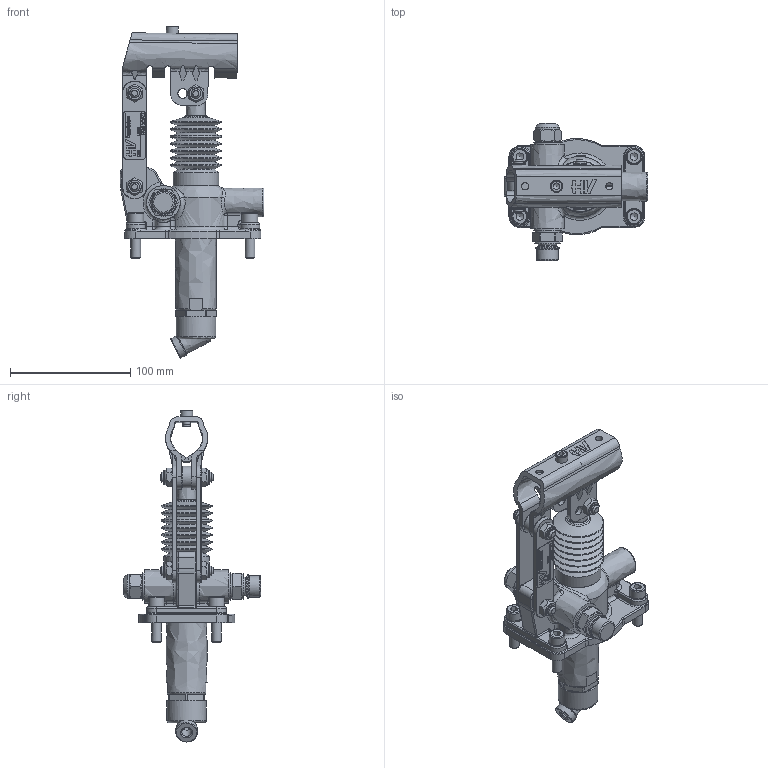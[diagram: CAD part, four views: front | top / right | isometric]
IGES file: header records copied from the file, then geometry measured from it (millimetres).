
Global section: file name: No Iges File Name specified; native system: Autodesk Inventor 2013; preprocessor: AutoDesk Inventor Iges Exporter R2013; author: christian.scardovi; date: 20240228.115859; units: millimetre
Bounding box: 119.5 x 114 x 276.08 mm (x, y, z)
Surface area: 116468.2 mm2
Topology: 2 solids, 3 shells, 1393 faces, 3529 edges, 2230 vertices
Faces by surface type: bspline 1393
